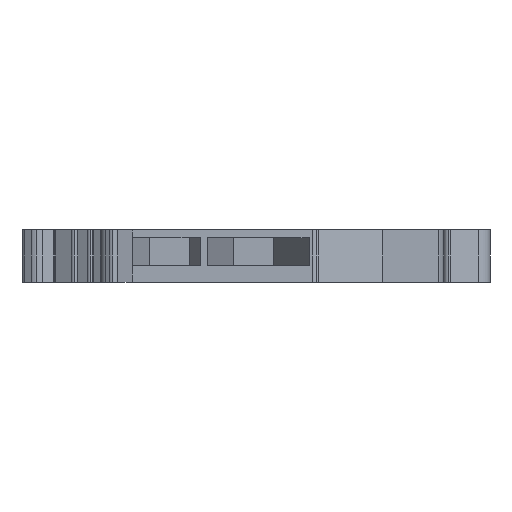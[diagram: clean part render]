
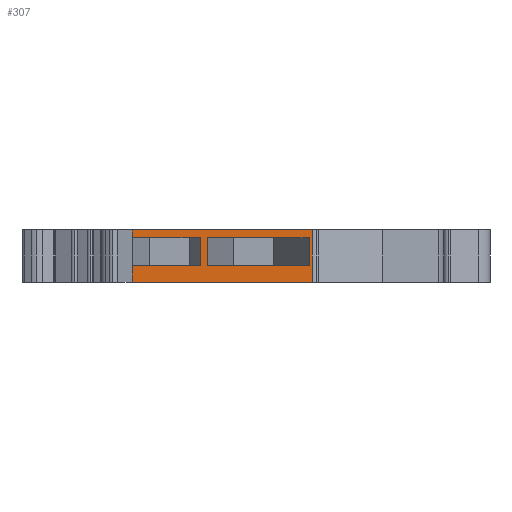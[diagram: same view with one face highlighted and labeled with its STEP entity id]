
A CAD part, left-side view. The second image highlights one B-rep face of the part: STEP entity #307.
In plain terms, the highlighted planar face has unit normal (-1, 0, 0).
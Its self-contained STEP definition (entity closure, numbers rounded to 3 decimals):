
#102=FACE_BOUND('',#865,.T.);
#103=FACE_BOUND('',#866,.T.);
#307=ADVANCED_FACE('',(#102,#103),#475,.T.);
#475=PLANE('',#4482);
#865=EDGE_LOOP('',(#1621,#1622,#1623,#1624,#1625,#1626,#1627,#1628));
#866=EDGE_LOOP('',(#1629,#1630,#1631,#1632));
#1621=ORIENTED_EDGE('',*,*,#3146,.T.);
#1622=ORIENTED_EDGE('',*,*,#2810,.T.);
#1623=ORIENTED_EDGE('',*,*,#3147,.F.);
#1624=ORIENTED_EDGE('',*,*,#3148,.F.);
#1625=ORIENTED_EDGE('',*,*,#3149,.T.);
#1626=ORIENTED_EDGE('',*,*,#2808,.F.);
#1627=ORIENTED_EDGE('',*,*,#3150,.F.);
#1628=ORIENTED_EDGE('',*,*,#2837,.T.);
#1629=ORIENTED_EDGE('',*,*,#3151,.F.);
#1630=ORIENTED_EDGE('',*,*,#3152,.F.);
#1631=ORIENTED_EDGE('',*,*,#3153,.T.);
#1632=ORIENTED_EDGE('',*,*,#3154,.F.);
#2391=VERTEX_POINT('',#5960);
#2392=VERTEX_POINT('',#5962);
#2393=VERTEX_POINT('',#5964);
#2394=VERTEX_POINT('',#5966);
#2415=VERTEX_POINT('',#6016);
#2418=VERTEX_POINT('',#6021);
#2637=VERTEX_POINT('',#6649);
#2638=VERTEX_POINT('',#6651);
#2639=VERTEX_POINT('',#6655);
#2640=VERTEX_POINT('',#6656);
#2641=VERTEX_POINT('',#6658);
#2642=VERTEX_POINT('',#6660);
#2808=EDGE_CURVE('',#2391,#2392,#3402,.T.);
#2810=EDGE_CURVE('',#2394,#2393,#3404,.T.);
#2837=EDGE_CURVE('',#2415,#2418,#3429,.T.);
#3146=EDGE_CURVE('',#2418,#2394,#3658,.T.);
#3147=EDGE_CURVE('',#2637,#2393,#3659,.T.);
#3148=EDGE_CURVE('',#2638,#2637,#3660,.T.);
#3149=EDGE_CURVE('',#2638,#2392,#3661,.T.);
#3150=EDGE_CURVE('',#2415,#2391,#3662,.T.);
#3151=EDGE_CURVE('',#2639,#2640,#3663,.T.);
#3152=EDGE_CURVE('',#2641,#2639,#3664,.T.);
#3153=EDGE_CURVE('',#2641,#2642,#3665,.T.);
#3154=EDGE_CURVE('',#2640,#2642,#3666,.T.);
#3402=LINE('',#5961,#3853);
#3404=LINE('',#5965,#3855);
#3429=LINE('',#6022,#3880);
#3658=LINE('',#6647,#4109);
#3659=LINE('',#6648,#4110);
#3660=LINE('',#6650,#4111);
#3661=LINE('',#6652,#4112);
#3662=LINE('',#6653,#4113);
#3663=LINE('',#6654,#4114);
#3664=LINE('',#6657,#4115);
#3665=LINE('',#6659,#4116);
#3666=LINE('',#6661,#4117);
#3853=VECTOR('',#4748,1.);
#3855=VECTOR('',#4750,1.);
#3880=VECTOR('',#4789,1.);
#4109=VECTOR('',#5374,1.);
#4110=VECTOR('',#5375,1.);
#4111=VECTOR('',#5376,1.);
#4112=VECTOR('',#5377,1.);
#4113=VECTOR('',#5378,1.);
#4114=VECTOR('',#5379,1.);
#4115=VECTOR('',#5380,1.);
#4116=VECTOR('',#5381,1.);
#4117=VECTOR('',#5382,1.);
#4482=AXIS2_PLACEMENT_3D('',#6662,#5383,#5384);
#4748=DIRECTION('',(0.,0.,1.));
#4750=DIRECTION('',(0.,0.,-1.));
#4789=DIRECTION('',(0.,0.,1.));
#5374=DIRECTION('',(0.,1.,0.));
#5375=DIRECTION('',(0.,1.,0.));
#5376=DIRECTION('',(0.,0.,1.));
#5377=DIRECTION('',(0.,1.,0.));
#5378=DIRECTION('',(0.,1.,0.));
#5379=DIRECTION('',(0.,1.,0.));
#5380=DIRECTION('',(0.,0.,1.));
#5381=DIRECTION('',(0.,1.,0.));
#5382=DIRECTION('',(0.,0.,-1.));
#5383=DIRECTION('',(-1.,0.,0.));
#5384=DIRECTION('',(0.,1.,0.));
#5960=CARTESIAN_POINT('',(-65.197,302.528,0.));
#5961=CARTESIAN_POINT('',(-65.197,302.528,0.));
#5962=CARTESIAN_POINT('',(-65.197,302.528,1.62));
#5964=CARTESIAN_POINT('',(-65.197,302.528,4.37));
#5965=CARTESIAN_POINT('',(-65.197,302.528,0.));
#5966=CARTESIAN_POINT('',(-65.197,302.528,5.15));
#6016=CARTESIAN_POINT('',(-65.197,284.871,0.));
#6021=CARTESIAN_POINT('',(-65.197,284.871,5.15));
#6022=CARTESIAN_POINT('',(-65.197,284.871,0.));
#6647=CARTESIAN_POINT('',(-65.197,0.,5.15));
#6648=CARTESIAN_POINT('',(-65.197,295.872,4.37));
#6649=CARTESIAN_POINT('',(-65.197,295.872,4.37));
#6650=CARTESIAN_POINT('',(-65.197,295.872,0.));
#6651=CARTESIAN_POINT('',(-65.197,295.872,1.62));
#6652=CARTESIAN_POINT('',(-65.197,0.,1.62));
#6653=CARTESIAN_POINT('',(-65.197,284.871,0.));
#6654=CARTESIAN_POINT('',(-65.197,285.202,4.37));
#6655=CARTESIAN_POINT('',(-65.197,285.202,4.37));
#6656=CARTESIAN_POINT('',(-65.197,295.143,4.37));
#6657=CARTESIAN_POINT('',(-65.197,285.202,0.));
#6658=CARTESIAN_POINT('',(-65.197,285.202,1.62));
#6659=CARTESIAN_POINT('',(-65.197,0.,1.62));
#6660=CARTESIAN_POINT('',(-65.197,295.143,1.62));
#6661=CARTESIAN_POINT('',(-65.197,295.143,0.));
#6662=CARTESIAN_POINT('',(-65.197,302.528,5.15));
